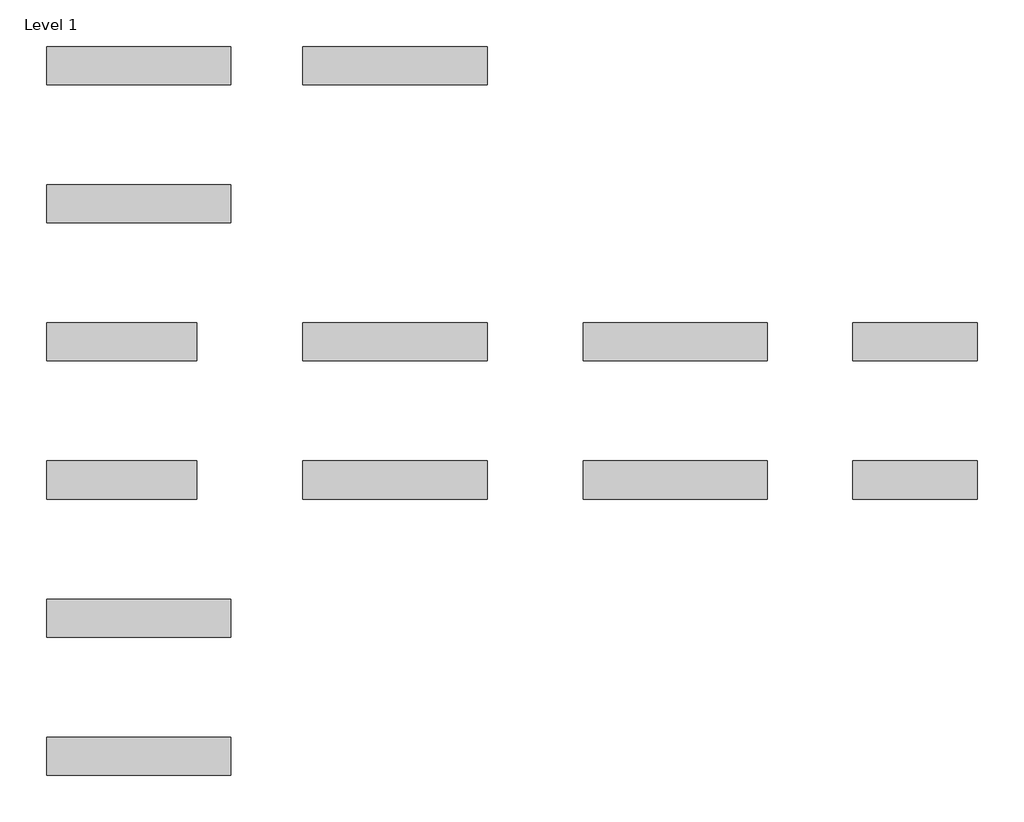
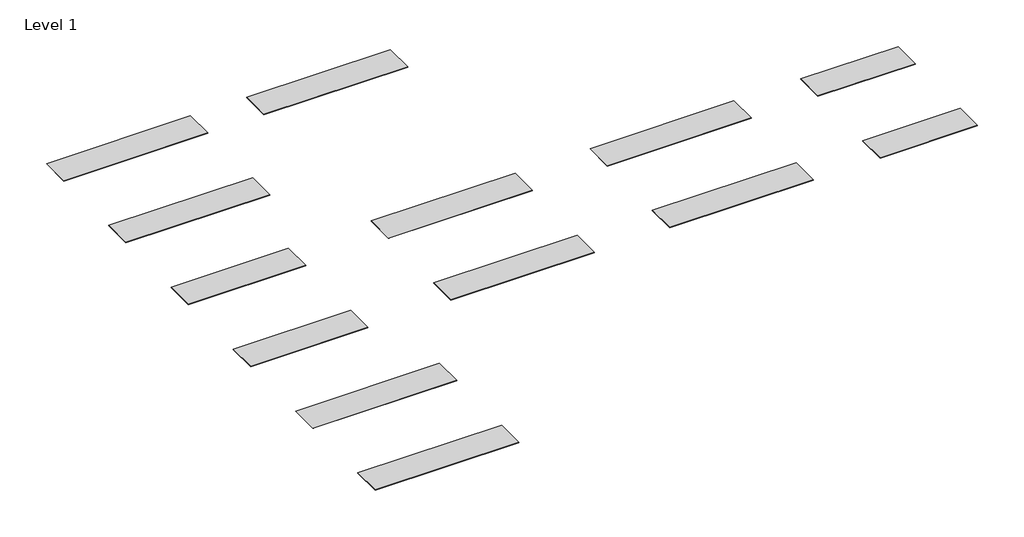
# One storey: 13 proxies.
"""IFC4 building model written with IfcOpenShell, lengths in millimetres."""

from ifc_helpers import new_model, si_unit, origin, place, context, project, spatial, transform, mapped, element, save
from components import g554_urban_concrete_12mm_760x3680mm_7f56e2ab, g554_urban_concrete_20mm_760x3000mm_a6e596b7, g554_urban_concrete_6mm_760x2490mm_c0a7b58a

model = new_model("IFC4")

# Units and contexts
model_context = context("Model", 3, world=origin())
ifc_project = project(units=[si_unit("LENGTHUNIT", "METRE", prefix="MILLI")], contexts=[model_context])

# Site, building, storey
site = spatial("IfcSite", under=ifc_project)
building = spatial("IfcBuilding", under=site)
storey = spatial("IfcBuildingStorey", under=building, Name="Level 1", Elevation=0.0)

# Proxies
placement = place(None, origin())
g554_urban_concrete_12mm_760x3680mm_shape = g554_urban_concrete_12mm_760x3680mm_7f56e2ab(model_context)
element("IfcBuildingElementProxy", 1, Name="Kitchen_Counter-Tops_Indoor-Material_HI-MACS_Concrete : M551_Chic-Concrete_12mm_760x3680mm", ObjectType="Kitchen_Counter-Tops_Indoor-Material_HI-MACS_Concrete : M551_Chic-Concrete_12mm_760x3680mm", at=placement, inside=storey, context=model_context, shape_type="MappedRepresentation", body=[
    mapped(g554_urban_concrete_12mm_760x3680mm_shape, transform((-22854.2438152, 5427.7143356, 0.0), x_axis=(1.0, 0.0, 0.0), y_axis=(0.0, 1.0, 0.0), z_axis=(0.0, 0.0, 1.0))),
])
element("IfcBuildingElementProxy", 2, Name="Kitchen_Counter-Tops_Indoor-Material_HI-MACS_Concrete : G554_Urban-Concrete_12mm_760x3680mm", ObjectType="Kitchen_Counter-Tops_Indoor-Material_HI-MACS_Concrete : G554_Urban-Concrete_12mm_760x3680mm", at=placement, inside=storey, context=model_context, shape_type="MappedRepresentation", body=[
    mapped(g554_urban_concrete_12mm_760x3680mm_shape, transform((-17734.0280057, -2852.5761963, 0.0), x_axis=(1.0, 0.0, 0.0), y_axis=(0.0, 1.0, 0.0), z_axis=(0.0, 0.0, 1.0))),
])
g554_urban_concrete_20mm_760x3000mm_shape = g554_urban_concrete_20mm_760x3000mm_a6e596b7(model_context)
element("IfcBuildingElementProxy", 3, Name="Kitchen_Counter-Tops_Indoor-Material_HI-MACS_Concrete : G554_Urban-Concrete_20mm_760x3000mm", ObjectType="Kitchen_Counter-Tops_Indoor-Material_HI-MACS_Concrete : G554_Urban-Concrete_20mm_760x3000mm", at=placement, inside=storey, context=model_context, shape_type="MappedRepresentation", body=[
    mapped(g554_urban_concrete_20mm_760x3000mm_shape, transform((-23194.2438152, -2852.5761963, 0.0), x_axis=(1.0, 0.0, 0.0), y_axis=(0.0, 1.0, 0.0), z_axis=(0.0, 0.0, 1.0))),
])
g554_urban_concrete_6mm_760x2490mm_shape = g554_urban_concrete_6mm_760x2490mm_c0a7b58a(model_context)
element("IfcBuildingElementProxy", 4, Name="Kitchen_Counter-Tops_Indoor-Material_HI-MACS_Concrete : G554_Urban-Concrete_6mm_760x2490mm", ObjectType="Kitchen_Counter-Tops_Indoor-Material_HI-MACS_Concrete : G554_Urban-Concrete_6mm_760x2490mm", at=placement, inside=storey, context=model_context, shape_type="MappedRepresentation", body=[
    mapped(g554_urban_concrete_6mm_760x2490mm_shape, transform((-7339.9152648, -2852.5761963, 0.0), x_axis=(1.0, 0.0, 0.0), y_axis=(0.0, 1.0, 0.0), z_axis=(0.0, 0.0, 1.0))),
])
element("IfcBuildingElementProxy", 5, Name="Kitchen_Counter-Tops_Indoor-Material_HI-MACS_Concrete : G554_Urban-Concrete_9mm_760x3680mm", ObjectType="Kitchen_Counter-Tops_Indoor-Material_HI-MACS_Concrete : G554_Urban-Concrete_9mm_760x3680mm", at=placement, inside=storey, context=model_context, shape_type="MappedRepresentation", body=[
    mapped(g554_urban_concrete_12mm_760x3680mm_shape, transform((-12134.0280057, -2852.5761963, 0.0), x_axis=(1.0, 0.0, 0.0), y_axis=(0.0, 1.0, 0.0), z_axis=(0.0, 0.0, 1.0))),
])
element("IfcBuildingElementProxy", 6, Name="Kitchen_Counter-Tops_Indoor-Material_HI-MACS_Concrete : G555_Steel-Concrete_12mm_760x3680mm", ObjectType="Kitchen_Counter-Tops_Indoor-Material_HI-MACS_Concrete : G555_Steel-Concrete_12mm_760x3680mm", at=placement, inside=storey, context=model_context, shape_type="MappedRepresentation", body=[
    mapped(g554_urban_concrete_12mm_760x3680mm_shape, transform((-17734.0280057, -92.4793523, 0.0), x_axis=(1.0, 0.0, 0.0), y_axis=(0.0, 1.0, 0.0), z_axis=(0.0, 0.0, 1.0))),
])
element("IfcBuildingElementProxy", 7, Name="Kitchen_Counter-Tops_Indoor-Material_HI-MACS_Concrete : G555_Steel-Concrete_20mm_760x3000mm", ObjectType="Kitchen_Counter-Tops_Indoor-Material_HI-MACS_Concrete : G555_Steel-Concrete_20mm_760x3000mm", at=placement, inside=storey, context=model_context, shape_type="MappedRepresentation", body=[
    mapped(g554_urban_concrete_20mm_760x3000mm_shape, transform((-23194.2438152, -92.4793523, 0.0), x_axis=(1.0, 0.0, 0.0), y_axis=(0.0, 1.0, 0.0), z_axis=(0.0, 0.0, 1.0))),
])
element("IfcBuildingElementProxy", 8, Name="Kitchen_Counter-Tops_Indoor-Material_HI-MACS_Concrete : G555_Steel-Concrete_6mm_760x2490mm", ObjectType="Kitchen_Counter-Tops_Indoor-Material_HI-MACS_Concrete : G555_Steel-Concrete_6mm_760x2490mm", at=placement, inside=storey, context=model_context, shape_type="MappedRepresentation", body=[
    mapped(g554_urban_concrete_6mm_760x2490mm_shape, transform((-7339.9152648, -92.4793523, 0.0), x_axis=(1.0, 0.0, 0.0), y_axis=(0.0, 1.0, 0.0), z_axis=(0.0, 0.0, 1.0))),
])
element("IfcBuildingElementProxy", 9, Name="Kitchen_Counter-Tops_Indoor-Material_HI-MACS_Concrete : G555_Steel-Concrete_9mm_760x3680mm", ObjectType="Kitchen_Counter-Tops_Indoor-Material_HI-MACS_Concrete : G555_Steel-Concrete_9mm_760x3680mm", at=placement, inside=storey, context=model_context, shape_type="MappedRepresentation", body=[
    mapped(g554_urban_concrete_12mm_760x3680mm_shape, transform((-12134.0280057, -92.4793523, 0.0), x_axis=(1.0, 0.0, 0.0), y_axis=(0.0, 1.0, 0.0), z_axis=(0.0, 0.0, 1.0))),
])
element("IfcBuildingElementProxy", 10, Name="Kitchen_Counter-Tops_Indoor-Material_HI-MACS_Concrete : G556_Cloud-Concrete_12 mm_760x3680mm", ObjectType="Kitchen_Counter-Tops_Indoor-Material_HI-MACS_Concrete : G556_Cloud-Concrete_12 mm_760x3680mm", at=placement, inside=storey, context=model_context, shape_type="MappedRepresentation", body=[
    mapped(g554_urban_concrete_12mm_760x3680mm_shape, transform((-22854.2438152, -5612.6730403, 0.0), x_axis=(1.0, 0.0, 0.0), y_axis=(0.0, 1.0, 0.0), z_axis=(0.0, 0.0, 1.0))),
])
element("IfcBuildingElementProxy", 11, Name="Kitchen_Counter-Tops_Indoor-Material_HI-MACS_Concrete : G557_Snow-Concrete_12mm_760x3680mm", ObjectType="Kitchen_Counter-Tops_Indoor-Material_HI-MACS_Concrete : G557_Snow-Concrete_12mm_760x3680mm", at=placement, inside=storey, context=model_context, shape_type="MappedRepresentation", body=[
    mapped(g554_urban_concrete_12mm_760x3680mm_shape, transform((-22854.2438152, -8372.7698842, 0.0), x_axis=(1.0000000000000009, 0.0, 0.0), y_axis=(0.0, 1.0000000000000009, 0.0), z_axis=(0.0, 0.0, 1.0))),
])
element("IfcBuildingElementProxy", 12, Name="Kitchen_Counter-Tops_Indoor-Material_HI-MACS_Concrete : M552_Shadow-Concrete_12mm_760x3680mm", ObjectType="Kitchen_Counter-Tops_Indoor-Material_HI-MACS_Concrete : M552_Shadow-Concrete_12mm_760x3680mm", at=placement, inside=storey, context=model_context, shape_type="MappedRepresentation", body=[
    mapped(g554_urban_concrete_12mm_760x3680mm_shape, transform((-17734.0280057, 5427.7143356, 0.0), x_axis=(1.0, 0.0, 0.0), y_axis=(0.0, 1.0, 0.0), z_axis=(0.0, 0.0, 1.0))),
])
element("IfcBuildingElementProxy", 13, Name="Kitchen_Counter-Tops_Indoor-Material_HI-MACS_Concrete : M553_Ebony-Concrete_12mm_760x3680mm", ObjectType="Kitchen_Counter-Tops_Indoor-Material_HI-MACS_Concrete : M553_Ebony-Concrete_12mm_760x3680mm", at=placement, inside=storey, context=model_context, shape_type="MappedRepresentation", body=[
    mapped(g554_urban_concrete_12mm_760x3680mm_shape, transform((-22854.2438152, 2667.6174917, 0.0), x_axis=(1.0, 0.0, 0.0), y_axis=(0.0, 1.0, 0.0), z_axis=(0.0, 0.0, 1.0))),
])

save(model, "model.ifc")
